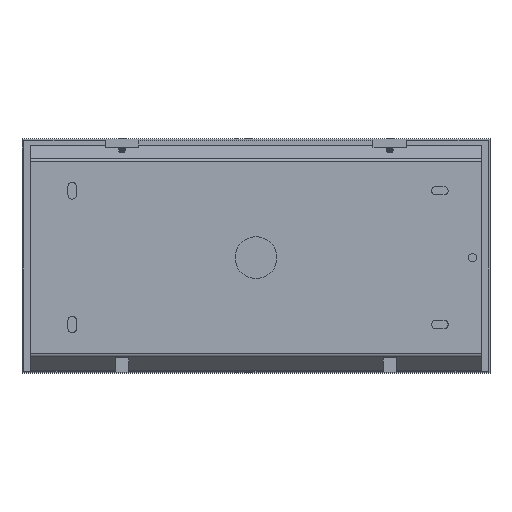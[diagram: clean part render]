
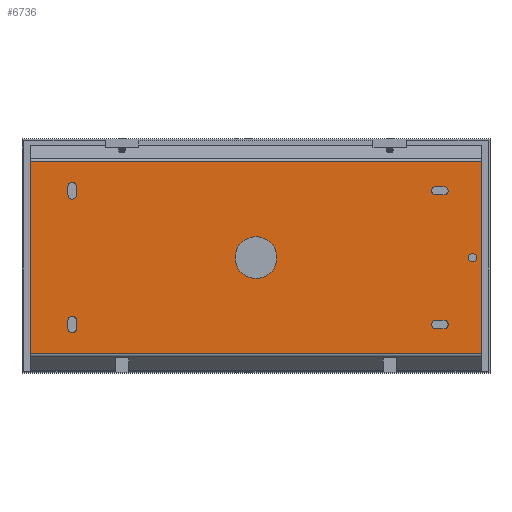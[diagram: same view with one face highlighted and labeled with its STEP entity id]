
A CAD part, top view. The second image highlights one B-rep face of the part: STEP entity #6736.
In plain terms, the highlighted planar face has unit normal (0, 0, 1) as drawn and (1, 0, 0) by its records, which use the part's own axes.
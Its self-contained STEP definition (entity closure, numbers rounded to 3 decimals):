
#6093=DIRECTION('',(0.,1.,0.));
#6094=VECTOR('',#6093,270.);
#6095=CARTESIAN_POINT('',(35.,-135.,-57.5));
#6096=LINE('',#6095,#6094);
#6097=DIRECTION('',(0.,0.,1.));
#6098=VECTOR('',#6097,115.);
#6099=CARTESIAN_POINT('',(35.,-135.,-57.5));
#6100=LINE('',#6099,#6098);
#6101=DIRECTION('',(0.,1.,0.));
#6102=VECTOR('',#6101,270.);
#6103=CARTESIAN_POINT('',(35.,-135.,57.5));
#6104=LINE('',#6103,#6102);
#6105=CARTESIAN_POINT('',(35.,0.,0.));
#6106=DIRECTION('',(1.,0.,0.));
#6107=DIRECTION('',(0.,0.,-1.));
#6108=AXIS2_PLACEMENT_3D('',#6105,#6106,#6107);
#6110=CARTESIAN_POINT('',(35.,0.,0.));
#6111=DIRECTION('',(1.,0.,0.));
#6112=DIRECTION('',(0.,0.,1.));
#6113=AXIS2_PLACEMENT_3D('',#6110,#6111,#6112);
#6115=DIRECTION('',(0.,1.,0.));
#6116=VECTOR('',#6115,5.);
#6117=CARTESIAN_POINT('',(35.,107.5,-37.5));
#6118=LINE('',#6117,#6116);
#6119=CARTESIAN_POINT('',(35.,107.5,-40.));
#6120=DIRECTION('',(1.,0.,0.));
#6121=DIRECTION('',(0.,0.,1.));
#6122=AXIS2_PLACEMENT_3D('',#6119,#6120,#6121);
#6124=DIRECTION('',(0.,-1.,0.));
#6125=VECTOR('',#6124,5.);
#6126=CARTESIAN_POINT('',(35.,112.5,-42.5));
#6127=LINE('',#6126,#6125);
#6128=CARTESIAN_POINT('',(35.,112.5,-40.));
#6129=DIRECTION('',(1.,0.,0.));
#6130=DIRECTION('',(0.,0.,-1.));
#6131=AXIS2_PLACEMENT_3D('',#6128,#6129,#6130);
#6133=DIRECTION('',(0.,-1.,0.));
#6134=VECTOR('',#6133,5.);
#6135=CARTESIAN_POINT('',(35.,112.5,37.5));
#6136=LINE('',#6135,#6134);
#6137=CARTESIAN_POINT('',(35.,112.5,40.));
#6138=DIRECTION('',(1.,0.,0.));
#6139=DIRECTION('',(0.,0.,-1.));
#6140=AXIS2_PLACEMENT_3D('',#6137,#6138,#6139);
#6142=DIRECTION('',(0.,1.,0.));
#6143=VECTOR('',#6142,5.);
#6144=CARTESIAN_POINT('',(35.,107.5,42.5));
#6145=LINE('',#6144,#6143);
#6146=CARTESIAN_POINT('',(35.,107.5,40.));
#6147=DIRECTION('',(1.,0.,0.));
#6148=DIRECTION('',(0.,0.,1.));
#6149=AXIS2_PLACEMENT_3D('',#6146,#6147,#6148);
#6151=DIRECTION('',(0.,0.,1.));
#6152=VECTOR('',#6151,5.);
#6153=CARTESIAN_POINT('',(35.,-112.5,-42.5));
#6154=LINE('',#6153,#6152);
#6155=CARTESIAN_POINT('',(35.,-110.,-42.5));
#6156=DIRECTION('',(1.,0.,0.));
#6157=DIRECTION('',(0.,-1.,0.));
#6158=AXIS2_PLACEMENT_3D('',#6155,#6156,#6157);
#6160=DIRECTION('',(0.,0.,-1.));
#6161=VECTOR('',#6160,5.);
#6162=CARTESIAN_POINT('',(35.,-107.5,-37.5));
#6163=LINE('',#6162,#6161);
#6164=CARTESIAN_POINT('',(35.,-110.,-37.5));
#6165=DIRECTION('',(1.,0.,0.));
#6166=DIRECTION('',(0.,1.,0.));
#6167=AXIS2_PLACEMENT_3D('',#6164,#6165,#6166);
#6169=DIRECTION('',(0.,0.,1.));
#6170=VECTOR('',#6169,5.);
#6171=CARTESIAN_POINT('',(35.,-112.5,37.5));
#6172=LINE('',#6171,#6170);
#6173=CARTESIAN_POINT('',(35.,-110.,37.5));
#6174=DIRECTION('',(1.,0.,0.));
#6175=DIRECTION('',(0.,-1.,0.));
#6176=AXIS2_PLACEMENT_3D('',#6173,#6174,#6175);
#6178=DIRECTION('',(0.,0.,-1.));
#6179=VECTOR('',#6178,5.);
#6180=CARTESIAN_POINT('',(35.,-107.5,42.5));
#6181=LINE('',#6180,#6179);
#6182=CARTESIAN_POINT('',(35.,-110.,42.5));
#6183=DIRECTION('',(1.,0.,0.));
#6184=DIRECTION('',(0.,1.,0.));
#6185=AXIS2_PLACEMENT_3D('',#6182,#6183,#6184);
#6187=CARTESIAN_POINT('',(35.,129.5,0.));
#6188=DIRECTION('',(1.,0.,0.));
#6189=DIRECTION('',(0.,0.,-1.));
#6190=AXIS2_PLACEMENT_3D('',#6187,#6188,#6189);
#6192=CARTESIAN_POINT('',(35.,129.5,0.));
#6193=DIRECTION('',(1.,0.,0.));
#6194=DIRECTION('',(0.,0.,1.));
#6195=AXIS2_PLACEMENT_3D('',#6192,#6193,#6194);
#6236=DIRECTION('',(0.,0.,1.));
#6237=VECTOR('',#6236,115.);
#6238=CARTESIAN_POINT('',(35.,135.,-57.5));
#6239=LINE('',#6238,#6237);
#6567=CARTESIAN_POINT('',(35.,135.,57.5));
#6568=VERTEX_POINT('',#6567);
#6569=CARTESIAN_POINT('',(35.,-135.,57.5));
#6570=VERTEX_POINT('',#6569);
#6573=CARTESIAN_POINT('',(35.,-135.,-57.5));
#6574=VERTEX_POINT('',#6573);
#6575=CARTESIAN_POINT('',(35.,135.,-57.5));
#6576=VERTEX_POINT('',#6575);
#6589=CARTESIAN_POINT('',(35.,0.,-12.5));
#6590=CARTESIAN_POINT('',(35.,0.,12.5));
#6591=VERTEX_POINT('',#6589);
#6592=VERTEX_POINT('',#6590);
#6597=CARTESIAN_POINT('',(35.,107.5,-37.5));
#6598=CARTESIAN_POINT('',(35.,112.5,-37.5));
#6599=VERTEX_POINT('',#6597);
#6600=VERTEX_POINT('',#6598);
#6601=CARTESIAN_POINT('',(35.,112.5,-42.5));
#6602=VERTEX_POINT('',#6601);
#6603=CARTESIAN_POINT('',(35.,107.5,-42.5));
#6604=VERTEX_POINT('',#6603);
#6605=CARTESIAN_POINT('',(35.,112.5,37.5));
#6606=CARTESIAN_POINT('',(35.,107.5,37.5));
#6607=VERTEX_POINT('',#6605);
#6608=VERTEX_POINT('',#6606);
#6609=CARTESIAN_POINT('',(35.,107.5,42.5));
#6610=VERTEX_POINT('',#6609);
#6611=CARTESIAN_POINT('',(35.,112.5,42.5));
#6612=VERTEX_POINT('',#6611);
#6613=CARTESIAN_POINT('',(35.,-112.5,-42.5));
#6614=CARTESIAN_POINT('',(35.,-112.5,-37.5));
#6615=VERTEX_POINT('',#6613);
#6616=VERTEX_POINT('',#6614);
#6617=CARTESIAN_POINT('',(35.,-107.5,-37.5));
#6618=VERTEX_POINT('',#6617);
#6619=CARTESIAN_POINT('',(35.,-107.5,-42.5));
#6620=VERTEX_POINT('',#6619);
#6621=CARTESIAN_POINT('',(35.,-112.5,37.5));
#6622=CARTESIAN_POINT('',(35.,-112.5,42.5));
#6623=VERTEX_POINT('',#6621);
#6624=VERTEX_POINT('',#6622);
#6625=CARTESIAN_POINT('',(35.,-107.5,42.5));
#6626=VERTEX_POINT('',#6625);
#6627=CARTESIAN_POINT('',(35.,-107.5,37.5));
#6628=VERTEX_POINT('',#6627);
#6661=CARTESIAN_POINT('',(35.,129.5,-2.5));
#6662=CARTESIAN_POINT('',(35.,129.5,2.5));
#6663=VERTEX_POINT('',#6661);
#6664=VERTEX_POINT('',#6662);
#6669=CARTESIAN_POINT('',(35.,-135.,-75.));
#6670=DIRECTION('',(1.,0.,0.));
#6671=DIRECTION('',(0.,1.,0.));
#6672=AXIS2_PLACEMENT_3D('',#6669,#6670,#6671);
#6673=PLANE('',#6672);
#6675=ORIENTED_EDGE('',*,*,#6674,.F.);
#6677=ORIENTED_EDGE('',*,*,#6676,.T.);
#6679=ORIENTED_EDGE('',*,*,#6678,.T.);
#6681=ORIENTED_EDGE('',*,*,#6680,.F.);
#6682=EDGE_LOOP('',(#6675,#6677,#6679,#6681));
#6683=FACE_OUTER_BOUND('',#6682,.F.);
#6685=ORIENTED_EDGE('',*,*,#6684,.T.);
#6687=ORIENTED_EDGE('',*,*,#6686,.T.);
#6688=EDGE_LOOP('',(#6685,#6687));
#6689=FACE_BOUND('',#6688,.F.);
#6691=ORIENTED_EDGE('',*,*,#6690,.F.);
#6693=ORIENTED_EDGE('',*,*,#6692,.T.);
#6695=ORIENTED_EDGE('',*,*,#6694,.F.);
#6697=ORIENTED_EDGE('',*,*,#6696,.T.);
#6698=EDGE_LOOP('',(#6691,#6693,#6695,#6697));
#6699=FACE_BOUND('',#6698,.F.);
#6701=ORIENTED_EDGE('',*,*,#6700,.F.);
#6703=ORIENTED_EDGE('',*,*,#6702,.T.);
#6705=ORIENTED_EDGE('',*,*,#6704,.F.);
#6707=ORIENTED_EDGE('',*,*,#6706,.T.);
#6708=EDGE_LOOP('',(#6701,#6703,#6705,#6707));
#6709=FACE_BOUND('',#6708,.F.);
#6711=ORIENTED_EDGE('',*,*,#6710,.F.);
#6713=ORIENTED_EDGE('',*,*,#6712,.T.);
#6715=ORIENTED_EDGE('',*,*,#6714,.F.);
#6717=ORIENTED_EDGE('',*,*,#6716,.T.);
#6718=EDGE_LOOP('',(#6711,#6713,#6715,#6717));
#6719=FACE_BOUND('',#6718,.F.);
#6721=ORIENTED_EDGE('',*,*,#6720,.F.);
#6723=ORIENTED_EDGE('',*,*,#6722,.T.);
#6725=ORIENTED_EDGE('',*,*,#6724,.F.);
#6727=ORIENTED_EDGE('',*,*,#6726,.T.);
#6728=EDGE_LOOP('',(#6721,#6723,#6725,#6727));
#6729=FACE_BOUND('',#6728,.F.);
#6731=ORIENTED_EDGE('',*,*,#6730,.T.);
#6733=ORIENTED_EDGE('',*,*,#6732,.T.);
#6734=EDGE_LOOP('',(#6731,#6733));
#6735=FACE_BOUND('',#6734,.F.);
#6736=ADVANCED_FACE('',(#6683,#6689,#6699,#6709,#6719,#6729,#6735),#6673,.T.);
#6109=CIRCLE('',#6108,12.5);
#6114=CIRCLE('',#6113,12.5);
#6123=CIRCLE('',#6122,2.5);
#6132=CIRCLE('',#6131,2.5);
#6141=CIRCLE('',#6140,2.5);
#6150=CIRCLE('',#6149,2.5);
#6159=CIRCLE('',#6158,2.5);
#6168=CIRCLE('',#6167,2.5);
#6177=CIRCLE('',#6176,2.5);
#6186=CIRCLE('',#6185,2.5);
#6191=CIRCLE('',#6190,2.5);
#6196=CIRCLE('',#6195,2.5);
#6674=EDGE_CURVE('',#6574,#6576,#6096,.T.);
#6676=EDGE_CURVE('',#6574,#6570,#6100,.T.);
#6678=EDGE_CURVE('',#6570,#6568,#6104,.T.);
#6680=EDGE_CURVE('',#6576,#6568,#6239,.T.);
#6684=EDGE_CURVE('',#6591,#6592,#6109,.T.);
#6686=EDGE_CURVE('',#6592,#6591,#6114,.T.);
#6690=EDGE_CURVE('',#6599,#6600,#6118,.T.);
#6692=EDGE_CURVE('',#6599,#6604,#6123,.T.);
#6694=EDGE_CURVE('',#6602,#6604,#6127,.T.);
#6696=EDGE_CURVE('',#6602,#6600,#6132,.T.);
#6700=EDGE_CURVE('',#6607,#6608,#6136,.T.);
#6702=EDGE_CURVE('',#6607,#6612,#6141,.T.);
#6704=EDGE_CURVE('',#6610,#6612,#6145,.T.);
#6706=EDGE_CURVE('',#6610,#6608,#6150,.T.);
#6710=EDGE_CURVE('',#6615,#6616,#6154,.T.);
#6712=EDGE_CURVE('',#6615,#6620,#6159,.T.);
#6714=EDGE_CURVE('',#6618,#6620,#6163,.T.);
#6716=EDGE_CURVE('',#6618,#6616,#6168,.T.);
#6720=EDGE_CURVE('',#6623,#6624,#6172,.T.);
#6722=EDGE_CURVE('',#6623,#6628,#6177,.T.);
#6724=EDGE_CURVE('',#6626,#6628,#6181,.T.);
#6726=EDGE_CURVE('',#6626,#6624,#6186,.T.);
#6730=EDGE_CURVE('',#6663,#6664,#6191,.T.);
#6732=EDGE_CURVE('',#6664,#6663,#6196,.T.);
